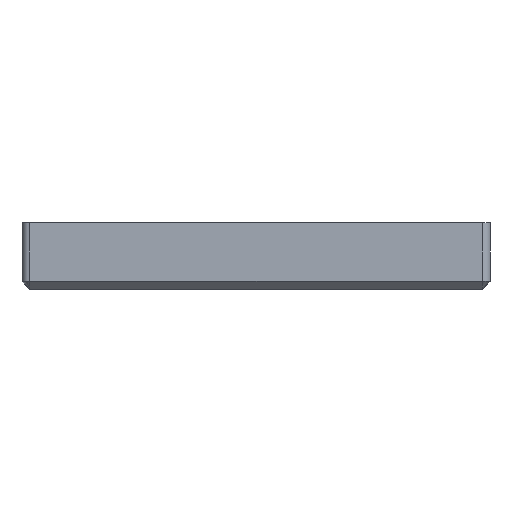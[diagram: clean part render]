
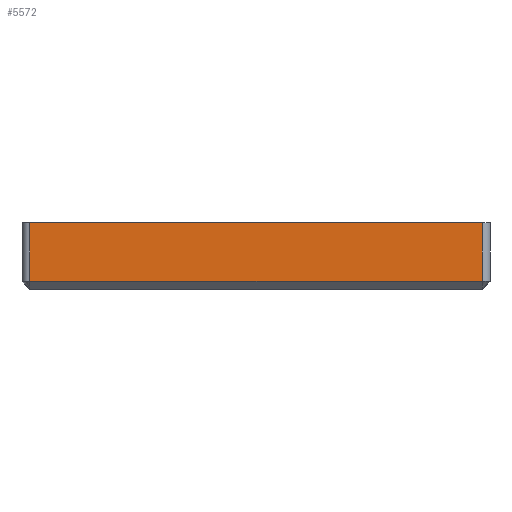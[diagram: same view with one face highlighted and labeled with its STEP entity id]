
A CAD part, left-side view. The second image highlights one B-rep face of the part: STEP entity #5572.
In plain terms, the highlighted planar face has unit normal (-1, 0, 0).
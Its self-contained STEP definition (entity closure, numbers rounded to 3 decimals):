
#1913 = PLANE('',#1914);
#1914 = AXIS2_PLACEMENT_3D('',#1915,#1916,#1917);
#1915 = CARTESIAN_POINT('',(71.1,-69.445,-4.85));
#1916 = DIRECTION('',(0.707,0.,0.707));
#1917 = DIRECTION('',(0.,-1.,0.));
#3620 = VERTEX_POINT('',#3621);
#3621 = CARTESIAN_POINT('',(70.6,-69.445,-4.35));
#3642 = EDGE_CURVE('',#3620,#3643,#3645,.T.);
#3643 = VERTEX_POINT('',#3644);
#3644 = CARTESIAN_POINT('',(70.6,-126.,-4.35));
#3645 = SURFACE_CURVE('',#3646,(#3650,#3657),.PCURVE_S1.);
#3646 = LINE('',#3647,#3648);
#3647 = CARTESIAN_POINT('',(70.6,-69.445,-4.35));
#3648 = VECTOR('',#3649,1.);
#3649 = DIRECTION('',(0.,-1.,0.));
#3650 = PCURVE('',#1913,#3651);
#3651 = DEFINITIONAL_REPRESENTATION('',(#3652),#3656);
#3652 = LINE('',#3653,#3654);
#3653 = CARTESIAN_POINT('',(0.,-0.707));
#3654 = VECTOR('',#3655,1.);
#3655 = DIRECTION('',(1.,0.));
#3656 = ( GEOMETRIC_REPRESENTATION_CONTEXT(2) 
PARAMETRIC_REPRESENTATION_CONTEXT() REPRESENTATION_CONTEXT('2D SPACE',''
  ) );
#3657 = PCURVE('',#3658,#3663);
#3658 = PLANE('',#3659);
#3659 = AXIS2_PLACEMENT_3D('',#3660,#3661,#3662);
#3660 = CARTESIAN_POINT('',(70.6,-97.723,-1.175));
#3661 = DIRECTION('',(-1.,-0.,-0.));
#3662 = DIRECTION('',(0.,0.,-1.));
#3663 = DEFINITIONAL_REPRESENTATION('',(#3664),#3668);
#3664 = LINE('',#3665,#3666);
#3665 = CARTESIAN_POINT('',(3.175,-28.278));
#3666 = VECTOR('',#3667,1.);
#3667 = DIRECTION('',(0.,1.));
#3668 = ( GEOMETRIC_REPRESENTATION_CONTEXT(2) 
PARAMETRIC_REPRESENTATION_CONTEXT() REPRESENTATION_CONTEXT('2D SPACE',''
  ) );
#5428 = CYLINDRICAL_SURFACE('',#5429,1.);
#5429 = AXIS2_PLACEMENT_3D('',#5430,#5431,#5432);
#5430 = CARTESIAN_POINT('',(71.6,-69.445,3.));
#5431 = DIRECTION('',(0.,0.,-1.));
#5432 = DIRECTION('',(0.,1.,0.));
#5456 = PLANE('',#5457);
#5457 = AXIS2_PLACEMENT_3D('',#5458,#5459,#5460);
#5458 = CARTESIAN_POINT('',(96.598,-103.092,3.));
#5459 = DIRECTION('',(0.,0.,1.));
#5460 = DIRECTION('',(0.,1.,0.));
#5572 = ADVANCED_FACE('',(#5573),#3658,.T.);
#5573 = FACE_BOUND('',#5574,.T.);
#5574 = EDGE_LOOP('',(#5575,#5603,#5626,#5647));
#5575 = ORIENTED_EDGE('',*,*,#5576,.F.);
#5576 = EDGE_CURVE('',#5577,#3643,#5579,.T.);
#5577 = VERTEX_POINT('',#5578);
#5578 = CARTESIAN_POINT('',(70.6,-126.,3.));
#5579 = SURFACE_CURVE('',#5580,(#5584,#5591),.PCURVE_S1.);
#5580 = LINE('',#5581,#5582);
#5581 = CARTESIAN_POINT('',(70.6,-126.,3.));
#5582 = VECTOR('',#5583,1.);
#5583 = DIRECTION('',(0.,0.,-1.));
#5584 = PCURVE('',#3658,#5585);
#5585 = DEFINITIONAL_REPRESENTATION('',(#5586),#5590);
#5586 = LINE('',#5587,#5588);
#5587 = CARTESIAN_POINT('',(-4.175,28.278));
#5588 = VECTOR('',#5589,1.);
#5589 = DIRECTION('',(1.,0.));
#5590 = ( GEOMETRIC_REPRESENTATION_CONTEXT(2) 
PARAMETRIC_REPRESENTATION_CONTEXT() REPRESENTATION_CONTEXT('2D SPACE',''
  ) );
#5591 = PCURVE('',#5592,#5597);
#5592 = CYLINDRICAL_SURFACE('',#5593,1.);
#5593 = AXIS2_PLACEMENT_3D('',#5594,#5595,#5596);
#5594 = CARTESIAN_POINT('',(71.6,-126.,3.));
#5595 = DIRECTION('',(0.,0.,-1.));
#5596 = DIRECTION('',(-1.,-0.,-0.));
#5597 = DEFINITIONAL_REPRESENTATION('',(#5598),#5602);
#5598 = LINE('',#5599,#5600);
#5599 = CARTESIAN_POINT('',(-0.,0.));
#5600 = VECTOR('',#5601,1.);
#5601 = DIRECTION('',(-0.,1.));
#5602 = ( GEOMETRIC_REPRESENTATION_CONTEXT(2) 
PARAMETRIC_REPRESENTATION_CONTEXT() REPRESENTATION_CONTEXT('2D SPACE',''
  ) );
#5603 = ORIENTED_EDGE('',*,*,#5604,.T.);
#5604 = EDGE_CURVE('',#5577,#5605,#5607,.T.);
#5605 = VERTEX_POINT('',#5606);
#5606 = CARTESIAN_POINT('',(70.6,-69.445,3.));
#5607 = SURFACE_CURVE('',#5608,(#5612,#5619),.PCURVE_S1.);
#5608 = LINE('',#5609,#5610);
#5609 = CARTESIAN_POINT('',(70.6,-90.359,3.));
#5610 = VECTOR('',#5611,1.);
#5611 = DIRECTION('',(0.,1.,0.));
#5612 = PCURVE('',#3658,#5613);
#5613 = DEFINITIONAL_REPRESENTATION('',(#5614),#5618);
#5614 = LINE('',#5615,#5616);
#5615 = CARTESIAN_POINT('',(-4.175,-7.363));
#5616 = VECTOR('',#5617,1.);
#5617 = DIRECTION('',(0.,-1.));
#5618 = ( GEOMETRIC_REPRESENTATION_CONTEXT(2) 
PARAMETRIC_REPRESENTATION_CONTEXT() REPRESENTATION_CONTEXT('2D SPACE',''
  ) );
#5619 = PCURVE('',#5456,#5620);
#5620 = DEFINITIONAL_REPRESENTATION('',(#5621),#5625);
#5621 = LINE('',#5622,#5623);
#5622 = CARTESIAN_POINT('',(12.733,25.998));
#5623 = VECTOR('',#5624,1.);
#5624 = DIRECTION('',(1.,0.));
#5625 = ( GEOMETRIC_REPRESENTATION_CONTEXT(2) 
PARAMETRIC_REPRESENTATION_CONTEXT() REPRESENTATION_CONTEXT('2D SPACE',''
  ) );
#5626 = ORIENTED_EDGE('',*,*,#5627,.T.);
#5627 = EDGE_CURVE('',#5605,#3620,#5628,.T.);
#5628 = SURFACE_CURVE('',#5629,(#5633,#5640),.PCURVE_S1.);
#5629 = LINE('',#5630,#5631);
#5630 = CARTESIAN_POINT('',(70.6,-69.445,3.));
#5631 = VECTOR('',#5632,1.);
#5632 = DIRECTION('',(0.,0.,-1.));
#5633 = PCURVE('',#3658,#5634);
#5634 = DEFINITIONAL_REPRESENTATION('',(#5635),#5639);
#5635 = LINE('',#5636,#5637);
#5636 = CARTESIAN_POINT('',(-4.175,-28.278));
#5637 = VECTOR('',#5638,1.);
#5638 = DIRECTION('',(1.,0.));
#5639 = ( GEOMETRIC_REPRESENTATION_CONTEXT(2) 
PARAMETRIC_REPRESENTATION_CONTEXT() REPRESENTATION_CONTEXT('2D SPACE',''
  ) );
#5640 = PCURVE('',#5428,#5641);
#5641 = DEFINITIONAL_REPRESENTATION('',(#5642),#5646);
#5642 = LINE('',#5643,#5644);
#5643 = CARTESIAN_POINT('',(-1.571,0.));
#5644 = VECTOR('',#5645,1.);
#5645 = DIRECTION('',(-0.,1.));
#5646 = ( GEOMETRIC_REPRESENTATION_CONTEXT(2) 
PARAMETRIC_REPRESENTATION_CONTEXT() REPRESENTATION_CONTEXT('2D SPACE',''
  ) );
#5647 = ORIENTED_EDGE('',*,*,#3642,.T.);
